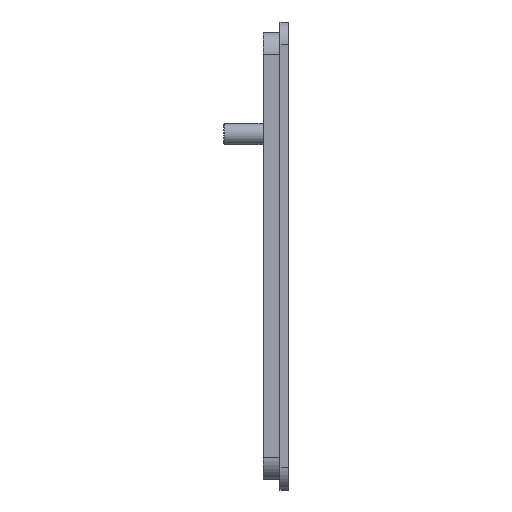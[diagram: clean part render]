
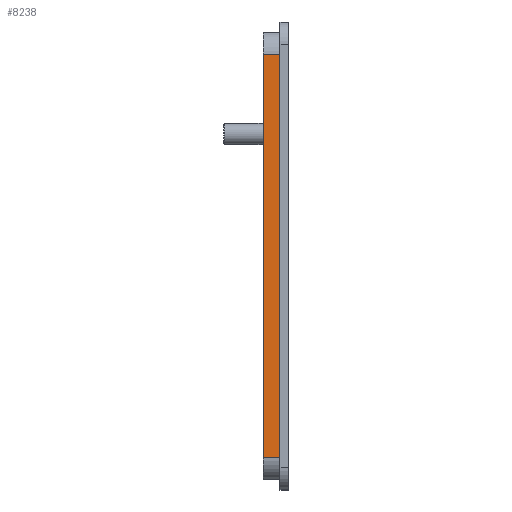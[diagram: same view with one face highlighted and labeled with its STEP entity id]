
A CAD part, left-side view. The second image highlights one B-rep face of the part: STEP entity #8238.
In plain terms, the highlighted planar face has unit normal (-1, 0, 0) as drawn and (1, 0, 0) by its records, which use the part's own axes.
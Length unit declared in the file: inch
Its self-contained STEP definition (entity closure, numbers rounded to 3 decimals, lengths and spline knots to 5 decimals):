
#38 = DIRECTION ( 'NONE',  ( 0., 0., -1. ) ) ;
#39 = DIRECTION ( 'NONE',  ( 1., 0., 0. ) ) ;
#44 = CARTESIAN_POINT ( 'NONE',  ( 16.75, 0.25, -0.187 ) ) ;
#47 = PLANE ( 'NONE',  #5504 ) ;
#113 = VECTOR ( 'NONE', #864, 39.37008 ) ;
#114 = LINE ( 'NONE', #725, #113 ) ;
#133 = LINE ( 'NONE', #820, #144 ) ;
#144 = VECTOR ( 'NONE', #819, 39.37008 ) ;
#195 = VECTOR ( 'NONE', #2402, 39.37008 ) ;
#196 = LINE ( 'NONE', #2403, #195 ) ;
#202 = LINE ( 'NONE', #2456, #214 ) ;
#214 = VECTOR ( 'NONE', #2419, 39.37008 ) ;
#498 = EDGE_LOOP ( 'NONE', ( #7422, #7427, #7428, #7429 ) ) ;
#725 = CARTESIAN_POINT ( 'NONE',  ( 16.75, 0.25, -0.187 ) ) ;
#819 = DIRECTION ( 'NONE',  ( 0., 1., 0. ) ) ;
#820 = CARTESIAN_POINT ( 'NONE',  ( 16.75, 0.25, -0.187 ) ) ;
#864 = DIRECTION ( 'NONE',  ( 0., 0., 1. ) ) ;
#1888 = FACE_OUTER_BOUND ( 'NONE', #498, .T. ) ;
#2402 = DIRECTION ( 'NONE',  ( 0., 1., 0. ) ) ;
#2403 = CARTESIAN_POINT ( 'NONE',  ( 16.75, 0.25, 0. ) ) ;
#2419 = DIRECTION ( 'NONE',  ( 0., 0., 1. ) ) ;
#2456 = CARTESIAN_POINT ( 'NONE',  ( 16.75, 4.75, -0.187 ) ) ;
#2496 = VERTEX_POINT ( 'NONE', #2795 ) ;
#2522 = CARTESIAN_POINT ( 'NONE',  ( 16.75, 4.75, 0. ) ) ;
#2571 = VERTEX_POINT ( 'NONE', #2772 ) ;
#2666 = CARTESIAN_POINT ( 'NONE',  ( 16.75, 0.25, -0.187 ) ) ;
#2772 = CARTESIAN_POINT ( 'NONE',  ( 16.75, 4.75, -0.187 ) ) ;
#2795 = CARTESIAN_POINT ( 'NONE',  ( 16.75, 0.25, 0. ) ) ;
#2817 = VERTEX_POINT ( 'NONE', #2666 ) ;
#2902 = VERTEX_POINT ( 'NONE', #2522 ) ;
#5250 = EDGE_CURVE ( 'NONE', #2571, #2902, #202, .T. ) ;
#5256 = EDGE_CURVE ( 'NONE', #2496, #2902, #196, .T. ) ;
#5314 = EDGE_CURVE ( 'NONE', #2817, #2571, #133, .T. ) ;
#5504 = AXIS2_PLACEMENT_3D ( 'NONE', #44, #39, #38 ) ;
#5542 = EDGE_CURVE ( 'NONE', #2817, #2496, #114, .T. ) ;
#7422 = ORIENTED_EDGE ( 'NONE', *, *, #5256, .F. ) ;
#7427 = ORIENTED_EDGE ( 'NONE', *, *, #5542, .F. ) ;
#7428 = ORIENTED_EDGE ( 'NONE', *, *, #5314, .T. ) ;
#7429 = ORIENTED_EDGE ( 'NONE', *, *, #5250, .T. ) ;
#8238 = ADVANCED_FACE ( 'NONE', ( #1888 ), #47, .T. ) ;
